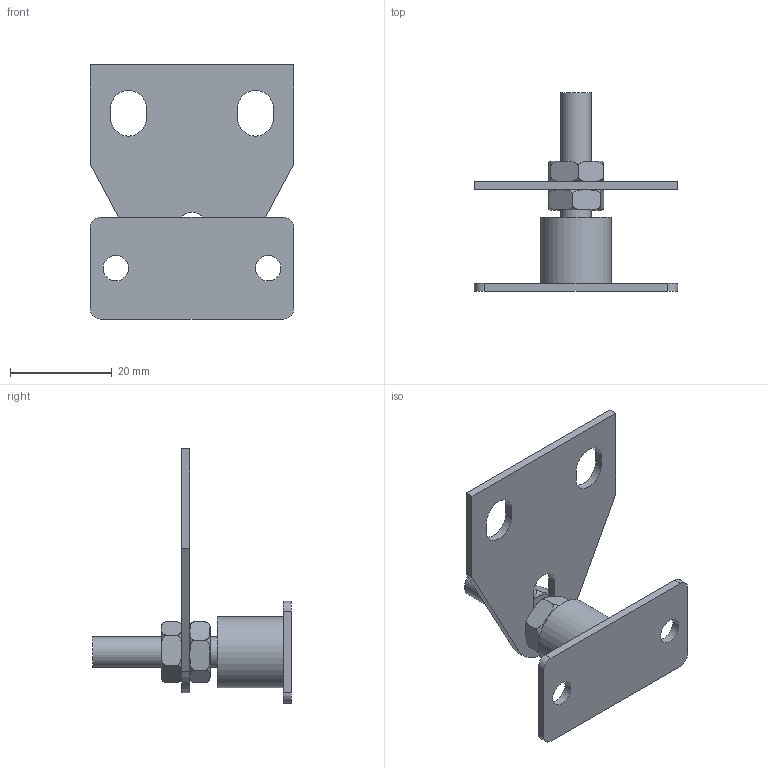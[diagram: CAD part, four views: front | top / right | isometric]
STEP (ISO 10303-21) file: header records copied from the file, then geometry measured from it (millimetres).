
FILE_DESCRIPTION(/* description */ (''),/* implementation_level */ '2;1');
FILE_NAME(/* name */ 'D:\硯聰\Inv材料庫-3D新型錄-2019整理\07.共用配件\GM-磁鐵\GM-P.stp',/* time_stamp */ '2020-03-09T14:49:04+08:00',/* author */ ('Owner'),/* organization */ (''),/* preprocessor_version */ 'ST-DEVELOPER v16.1',/* originating_system */ 'Autodesk Inventor 2016',/* authorisation */ '');
FILE_SCHEMA (('AUTOMOTIVE_DESIGN { 1 0 10303 214 3 1 1 }'));
Length unit declared in the file: millimetre
Products named in the file (1): GM-P
Bounding box: 40 x 39.1 x 50 mm (x, y, z)
Volume: 6418 mm3; surface area: 6735.2 mm2
Topology: 5 solids, 5 shells, 59 faces, 140 edges, 92 vertices
Faces by surface type: plane 38, cylinder 17, torus 4
Full cylindrical faces by diameter (mm): 5 x2, 6 x1, 7 x2, 14 x1
Entity records: 2176 total; most frequent: CARTESIAN_POINT 798, DIRECTION 264, ORIENTED_EDGE 260, EDGE_CURVE 130, AXIS2_PLACEMENT_3D 98, VERTEX_POINT 92, EDGE_LOOP 84, LINE 68
